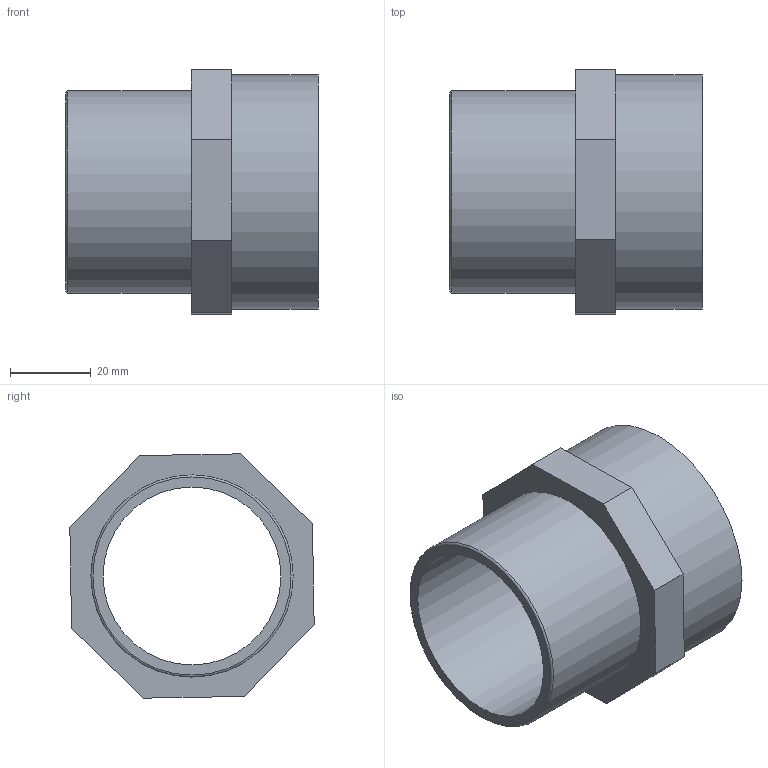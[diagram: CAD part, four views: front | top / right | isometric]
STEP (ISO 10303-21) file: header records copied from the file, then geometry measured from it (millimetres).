
FILE_DESCRIPTION(/* description */ (''),/* implementation_level */ '2;1');
FILE_NAME(/* name */ 'C:\Users\Gabriele\Desktop\disegni 3D\SF12\SF12050F.ipt.stp',/* time_stamp */ '2017-02-10T10:11:22+01:00',/* author */ ('Eugenio'),/* organization */ (''),/* preprocessor_version */ 'ST-DEVELOPER v16.5',/* originating_system */ 'Autodesk Inventor 2017',/* authorisation */ '');
FILE_SCHEMA (('AUTOMOTIVE_DESIGN { 1 0 10303 214 3 1 1 }'));
Length unit declared in the file: millimetre
Products named in the file (1): SF12050F
Bounding box: 62.4 x 60.41 x 60.41 mm (x, y, z)
Volume: 48853.9 mm3; surface area: 31274 mm2
Topology: 2 solids, 2 shells, 28 faces, 62 edges, 41 vertices
Faces by surface type: plane 15, cylinder 6, bspline 6, torus 1
Full cylindrical faces by diameter (mm): 44 x1, 47.8 x2, 50 x1, 58 x1
Entity records: 5055 total; most frequent: CARTESIAN_POINT 4465, ORIENTED_EDGE 112, DIRECTION 96, EDGE_CURVE 56, EDGE_LOOP 41, VERTEX_POINT 41, AXIS2_PLACEMENT_3D 36, FACE_OUTER_BOUND 28
